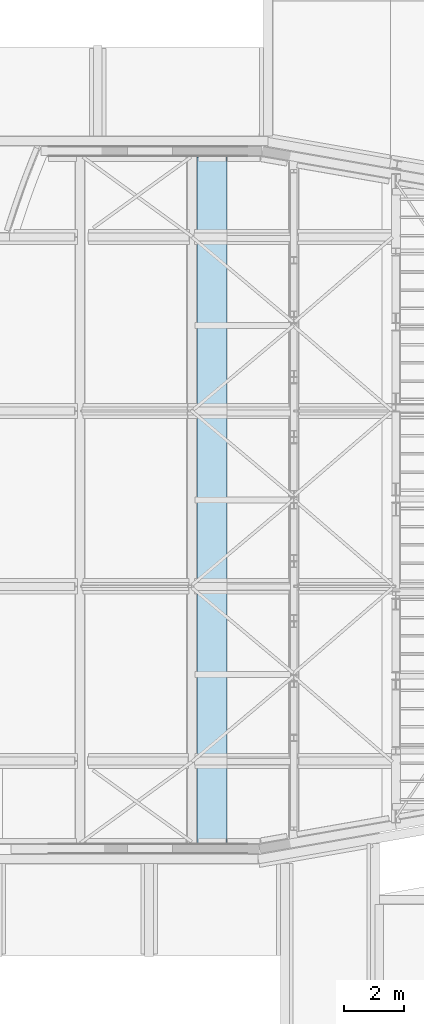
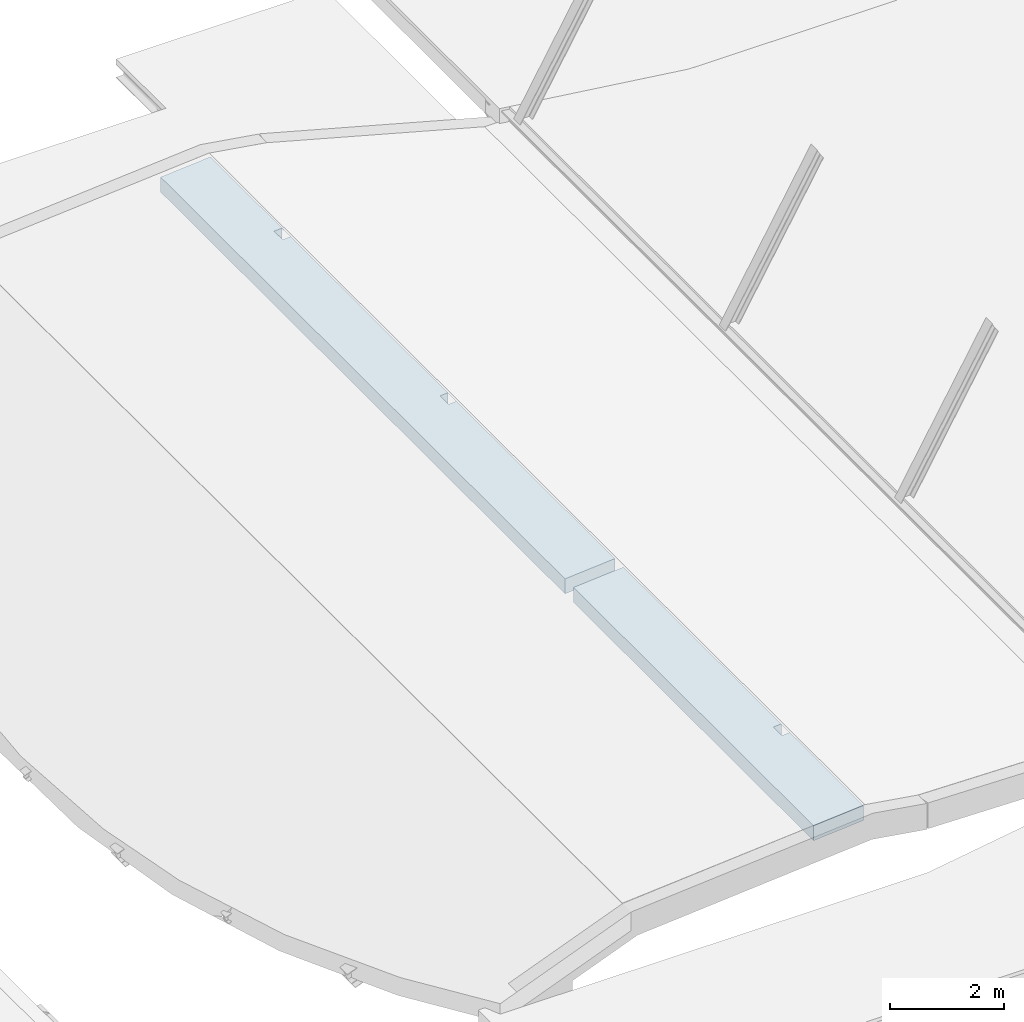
# One storey, part 39 of 50: 1 slab, 8 openings.
"""IFC2X3 building model written with IfcOpenShell, lengths in millimetres."""

from ifc_helpers import new_model, entity, si_unit, converted_unit, derived_unit, direction, frame, frame_2d, origin, place, context, subcontext, project, spatial, rectangle, extrude, faceted_brep, material, layer, layer_set, layer_usage, type_object, element, save


model = new_model("IFC2X3")

# Units and contexts
model_context = context("Model", 3, precision=0.01, world=origin(), true_north=direction((6.12303176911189e-17, 1.0)))
body_context = subcontext(model_context, "Body", "Model", "MODEL_VIEW")
ifc_project = project(units=[si_unit("LENGTHUNIT", "METRE", prefix="MILLI"), si_unit("AREAUNIT", "SQUARE_METRE", prefix="MILLI"), si_unit("VOLUMEUNIT", "CUBIC_METRE"), converted_unit("PLANEANGLEUNIT", "DEGREE", entity("IfcRatioMeasure", 0.0174532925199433), si_unit("PLANEANGLEUNIT", "RADIAN"), dimensions=[0, 0, 0, 0, 0, 0, 0]), si_unit("MASSUNIT", "GRAM", prefix="KILO"), derived_unit("MASSDENSITYUNIT", [(si_unit("MASSUNIT", "GRAM", prefix="KILO"), 1), (si_unit("LENGTHUNIT", "METRE"), -3)]), derived_unit("MOMENTOFINERTIAUNIT", [(si_unit("LENGTHUNIT", "METRE"), 4)]), si_unit("TIMEUNIT", "SECOND"), si_unit("FREQUENCYUNIT", "HERTZ"), si_unit("THERMODYNAMICTEMPERATUREUNIT", "DEGREE_CELSIUS"), derived_unit("THERMALTRANSMITTANCEUNIT", [(si_unit("MASSUNIT", "GRAM", prefix="KILO"), 1), (si_unit("THERMODYNAMICTEMPERATUREUNIT", "KELVIN"), -1), (si_unit("TIMEUNIT", "SECOND"), -3)]), derived_unit("VOLUMETRICFLOWRATEUNIT", [(si_unit("LENGTHUNIT", "METRE"), 3), (si_unit("TIMEUNIT", "SECOND"), -1)]), si_unit("ELECTRICCURRENTUNIT", "AMPERE"), si_unit("ELECTRICVOLTAGEUNIT", "VOLT"), si_unit("POWERUNIT", "WATT"), si_unit("FORCEUNIT", "NEWTON", prefix="KILO"), si_unit("ILLUMINANCEUNIT", "LUX"), si_unit("LUMINOUSFLUXUNIT", "LUMEN"), si_unit("LUMINOUSINTENSITYUNIT", "CANDELA"), derived_unit("USERDEFINED", [(si_unit("MASSUNIT", "GRAM", prefix="KILO"), -1), (si_unit("LENGTHUNIT", "METRE"), -2), (si_unit("TIMEUNIT", "SECOND"), 3), (si_unit("LUMINOUSFLUXUNIT", "LUMEN"), 1)]), derived_unit("LINEARVELOCITYUNIT", [(si_unit("LENGTHUNIT", "METRE"), 1), (si_unit("TIMEUNIT", "SECOND"), -1)]), si_unit("PRESSUREUNIT", "PASCAL"), derived_unit("USERDEFINED", [(si_unit("LENGTHUNIT", "METRE"), -2), (si_unit("MASSUNIT", "GRAM", prefix="KILO"), 1), (si_unit("TIMEUNIT", "SECOND"), -2)]), derived_unit("LINEARFORCEUNIT", [(si_unit("MASSUNIT", "GRAM", prefix="KILO"), 1), (si_unit("LENGTHUNIT", "METRE"), 1), (si_unit("TIMEUNIT", "SECOND"), -2), (si_unit("LENGTHUNIT", "METRE"), -1)]), derived_unit("PLANARFORCEUNIT", [(si_unit("MASSUNIT", "GRAM", prefix="KILO"), 1), (si_unit("LENGTHUNIT", "METRE"), 1), (si_unit("TIMEUNIT", "SECOND"), -2), (si_unit("LENGTHUNIT", "METRE"), -2)])], contexts=[model_context])

# Site, building, storey
site_placement = place(None, origin())
site = spatial("IfcSite", under=ifc_project, at=site_placement, Name="Theater aan de Parade", CompositionType="ELEMENT")
building_placement = place(site_placement, origin())
building = spatial("IfcBuilding", under=site, at=building_placement, Name="Theater aan de Parade", CompositionType="ELEMENT")
storey_placement = place(building_placement, frame((0.0, 0.0, 15820.0)))
storey = spatial("IfcBuildingStorey", under=building, at=storey_placement, Name="04 vierde verdieping", CompositionType="ELEMENT", Elevation=15820.0)

# Slab, openings
ifc_material = material(Name="00_PBT_MAT_systeemvloer")
ifc_layer = layer(ifc_material, 320.0)
ifc_layer_set = layer_set([ifc_layer], Name="Floor:28_PBT_FL_kanaalplaat_d=320")
ifc_layer_usage = layer_usage(ifc_layer_set, "AXIS3", "POSITIVE", 0.0)
slab_type = type_object("IfcSlabType", Name="Floor:28_PBT_FL_kanaalplaat_d=320", PredefinedType="FLOOR", material=ifc_layer_set)
slab_placement = place(storey_placement, frame((45780.0, 20980.0, 1322.41958552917)))
slab = element("IfcSlab", 1, at=slab_placement, inside=storey, type_object=slab_type, material=ifc_layer_usage, Name="Floor:28_PBT_FL_kanaalplaat_d=320:2", ObjectType="Floor:28_PBT_FL_kanaalplaat_d=320", PredefinedType="FLOOR", context=body_context, shape_type="SweptSolid", body=[
    extrude(rectangle(XDim=1012.78766900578, YDim=22879.9999999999, at=frame_2d((3673.50965774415, -742.555229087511), x_axis=(-1.0, 0.0))), frame((567.96014646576, 12182.5552290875, 366.434549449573), z_axis=(-0.079704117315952, 0.0, 0.996818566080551), x_axis=(0.996818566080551, 0.0, 0.0797041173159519)), (-0.0797041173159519, 0.0, -0.996818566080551), 321.021308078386),
])
placement = place(storey_placement, frame((45780.0, 20980.0, 1322.41958552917)))
opening_1_placement = place(placement, frame((76.0079135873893, 2473.93663264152, 3.18347489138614)))
element("IfcOpeningElement", 2, at=opening_1_placement, cuts=slab, ObjectType="Opening", context=body_context, shape_type="Brep", body=[
    faceted_brep([(3344.51160539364, 105.0, 591.29730859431), (3344.51160539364, 405.0, 591.29730859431), (0.0, 105.0, 323.966738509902), (0.0, 405.0, 323.966738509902), (3370.247276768, 0.0, 269.324211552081), (3370.32695376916, 0.0, 268.327390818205), (3370.32695376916, 105.0, 268.327390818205), (3370.32695376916, 405.0, 268.327390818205), (3370.40663077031, 105.0, 267.33057008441), (3370.40663077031, 405.0, 267.33057008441), (3370.247276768, 510.0, 269.324211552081), (3370.32695376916, 510.0, 268.327390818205), (3370.247276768, 405.0, 269.324211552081), (3370.247276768, 105.0, 269.324211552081), (25.815348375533, 105.0, 0.996820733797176), (25.815348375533, 0.0, 0.996820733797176), (25.7356713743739, 0.0, 1.99364146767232), (25.8950253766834, 105.0, 0.0), (25.815348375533, 405.0, 0.996820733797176), (25.8950253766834, 405.0, 0.0), (25.815348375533, 510.0, 0.996820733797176), (25.7356713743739, 510.0, 1.99364146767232), (25.7356713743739, 405.0, 1.99364146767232), (25.7356713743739, 105.0, 1.99364146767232), (2871.91658683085, 405.0, 228.488890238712), (2871.83690982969, 405.0, 229.485710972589), (175.338458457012, 405.0, 12.9483709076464), (175.258781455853, 405.0, 13.9451916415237), (2971.51898321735, 105.0, 237.453411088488), (2971.59866021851, 105.0, 236.45659035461), (125.497421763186, 105.0, 8.96452084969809), (125.417744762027, 105.0, 9.96134158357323), (175.258781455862, 510.0, 13.9451916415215), (175.338458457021, 510.0, 12.9483709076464), (125.417744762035, 0.0, 9.96134158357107), (125.497421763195, 0.0, 8.96452084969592), (2871.83690982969, 510.0, 229.485710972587), (2871.91658683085, 510.0, 228.488890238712), (2971.51898321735, 0.0, 237.453411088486), (2971.59866021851, 0.0, 236.45659035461)], [[[0, 1, 2]], [[3, 2, 1]], [[4, 5, 6]], [[7, 6, 8]], [[8, 9, 7]], [[10, 7, 11]], [[7, 12, 6]], [[1, 0, 13]], [[6, 12, 13]], [[12, 7, 10]], [[13, 12, 1]], [[13, 4, 6]], [[14, 15, 16]], [[17, 14, 18]], [[18, 19, 17]], [[20, 18, 21]], [[14, 22, 18]], [[23, 2, 3]], [[23, 22, 14]], [[21, 18, 22]], [[3, 22, 23]], [[14, 16, 23]], [[9, 24, 7]], [[24, 9, 19]], [[1, 12, 25]], [[1, 25, 3]], [[24, 26, 25]], [[26, 19, 18]], [[19, 26, 24]], [[27, 22, 3]], [[27, 3, 25]], [[26, 27, 25]], [[0, 28, 13]], [[28, 0, 2]], [[8, 6, 29]], [[8, 29, 17]], [[28, 30, 29]], [[31, 2, 23]], [[2, 31, 28]], [[30, 14, 17]], [[30, 17, 29]], [[31, 30, 28]], [[9, 8, 19]], [[17, 19, 8]], [[22, 27, 32]], [[32, 21, 22]], [[20, 33, 26]], [[26, 18, 20]], [[32, 27, 33]], [[26, 33, 27]], [[21, 32, 33]], [[33, 20, 21]], [[34, 31, 16]], [[23, 16, 31]], [[15, 14, 35]], [[30, 35, 14]], [[34, 16, 15]], [[15, 35, 34]], [[31, 34, 35]], [[35, 30, 31]], [[25, 12, 36]], [[10, 36, 12]], [[37, 11, 24]], [[7, 24, 11]], [[36, 10, 11]], [[11, 37, 36]], [[25, 36, 37]], [[37, 24, 25]], [[38, 4, 13]], [[13, 28, 38]], [[29, 6, 5]], [[5, 39, 29]], [[38, 28, 29]], [[29, 39, 38]], [[4, 38, 39]], [[39, 5, 4]]]),
])
opening_2_placement = place(placement, frame((-108.225878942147, 8302.98799142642, -11.5425391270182)))
element("IfcOpeningElement", 3, at=opening_2_placement, cuts=slab, ObjectType="Opening", context=body_context, shape_type="Brep", body=[
    faceted_brep([(3548.68181260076, 105.0, 607.616862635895), (3548.68181260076, 405.0, 607.616862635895), (0.0, 405.0, 323.966738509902), (0.0, 105.0, 323.966738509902), (3574.41748397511, 0.0, 285.643765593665), (3574.49716097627, 0.0, 284.64694485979), (3574.49716097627, 105.0, 284.64694485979), (3574.49716097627, 405.0, 284.64694485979), (3574.57683797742, 105.0, 283.650124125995), (3574.57683797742, 405.0, 283.650124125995), (3574.41748397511, 510.0, 285.643765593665), (3574.49716097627, 510.0, 284.64694485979), (3574.41748397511, 405.0, 285.643765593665), (3574.41748397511, 105.0, 285.643765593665), (25.815348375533, 105.0, 0.996820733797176), (25.815348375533, 0.0, 0.996820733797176), (25.7356713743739, 0.0, 1.99364146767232), (25.8950253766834, 105.0, 0.0), (25.815348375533, 405.0, 0.996820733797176), (25.8950253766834, 405.0, 0.0), (25.815348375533, 510.0, 0.996820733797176), (25.7356713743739, 510.0, 1.99364146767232), (25.7356713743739, 405.0, 1.99364146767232), (25.7356713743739, 105.0, 1.99364146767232), (3076.08679403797, 405.0, 244.808444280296), (3076.00711703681, 405.0, 245.805265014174), (175.338458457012, 405.0, 12.9483709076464), (175.258781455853, 405.0, 13.9451916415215), (3175.68919042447, 105.0, 253.772965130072), (3175.76886742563, 105.0, 252.776144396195), (125.497421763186, 105.0, 8.96452084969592), (125.417744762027, 105.0, 9.96134158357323), (175.258781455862, 510.0, 13.9451916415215), (175.338458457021, 510.0, 12.9483709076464), (125.417744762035, 0.0, 9.96134158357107), (125.497421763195, 0.0, 8.96452084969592), (3076.00711703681, 510.0, 245.805265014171), (3076.08679403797, 510.0, 244.808444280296), (3175.68919042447, 0.0, 253.77296513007), (3175.76886742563, 0.0, 252.776144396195)], [[[0, 1, 2]], [[2, 3, 0]], [[4, 5, 6]], [[7, 6, 8]], [[8, 9, 7]], [[10, 7, 11]], [[7, 12, 6]], [[1, 0, 13]], [[6, 12, 13]], [[12, 7, 10]], [[13, 12, 1]], [[13, 4, 6]], [[14, 15, 16]], [[17, 14, 18]], [[18, 19, 17]], [[20, 18, 21]], [[14, 22, 18]], [[23, 3, 2]], [[23, 22, 14]], [[21, 18, 22]], [[2, 22, 23]], [[14, 16, 23]], [[9, 24, 7]], [[24, 9, 19]], [[1, 12, 25]], [[1, 25, 2]], [[24, 26, 25]], [[26, 19, 18]], [[19, 26, 24]], [[27, 22, 2]], [[27, 2, 25]], [[26, 27, 25]], [[0, 28, 13]], [[28, 0, 3]], [[8, 6, 29]], [[8, 29, 17]], [[28, 30, 29]], [[31, 3, 23]], [[3, 31, 28]], [[30, 14, 17]], [[30, 17, 29]], [[31, 30, 28]], [[9, 8, 17]], [[17, 19, 9]], [[22, 27, 32]], [[32, 21, 22]], [[20, 33, 26]], [[26, 18, 20]], [[32, 27, 33]], [[26, 33, 27]], [[21, 32, 33]], [[33, 20, 21]], [[34, 31, 16]], [[23, 16, 31]], [[15, 14, 35]], [[30, 35, 14]], [[34, 16, 15]], [[15, 35, 34]], [[31, 34, 35]], [[35, 30, 31]], [[25, 12, 36]], [[10, 36, 12]], [[37, 11, 24]], [[7, 24, 11]], [[36, 10, 11]], [[11, 37, 36]], [[25, 36, 37]], [[37, 24, 25]], [[38, 4, 13]], [[13, 28, 38]], [[29, 6, 5]], [[5, 39, 29]], [[38, 28, 29]], [[29, 39, 38]], [[4, 38, 39]], [[39, 5, 4]]]),
])
opening_3_placement = place(placement, frame((-108.225878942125, 14154.5120085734, -11.5425391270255)))
element("IfcOpeningElement", 4, at=opening_3_placement, cuts=slab, ObjectType="Opening", context=body_context, shape_type="Brep", body=[
    faceted_brep([(3496.14935931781, 105.0, 603.417884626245), (3496.14935931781, 405.0, 603.417884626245), (0.0, 405.0, 323.966738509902), (0.0, 105.0, 323.966738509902), (3521.88503069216, 0.0, 281.444787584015), (3521.96470769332, 0.0, 280.44796685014), (3521.96470769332, 105.0, 280.44796685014), (3521.96470769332, 405.0, 280.44796685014), (3522.04438469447, 105.0, 279.451146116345), (3522.04438469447, 405.0, 279.451146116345), (3521.88503069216, 510.0, 281.444787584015), (3521.96470769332, 510.0, 280.44796685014), (3521.88503069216, 405.0, 281.444787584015), (3521.88503069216, 105.0, 281.444787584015), (25.815348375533, 105.0, 0.996820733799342), (25.815348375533, 0.0, 0.996820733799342), (25.7356713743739, 0.0, 1.99364146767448), (25.8950253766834, 105.0, 0.0), (25.815348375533, 405.0, 0.996820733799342), (25.8950253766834, 405.0, 0.0), (25.815348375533, 510.0, 0.996820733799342), (25.7356713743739, 510.0, 1.99364146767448), (25.7356713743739, 405.0, 1.99364146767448), (25.7356713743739, 105.0, 1.99364146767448), (3023.55434075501, 405.0, 240.609466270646), (3023.47466375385, 405.0, 241.606287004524), (175.338458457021, 405.0, 12.9483709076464), (175.258781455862, 405.0, 13.9451916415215), (3123.15673714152, 105.0, 249.573987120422), (3123.23641414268, 105.0, 248.577166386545), (125.497421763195, 105.0, 8.96452084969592), (125.417744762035, 105.0, 9.96134158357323), (175.258781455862, 510.0, 13.9451916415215), (175.338458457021, 510.0, 12.9483709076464), (125.417744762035, 0.0, 9.96134158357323), (125.497421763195, 0.0, 8.96452084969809), (3023.47466375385, 510.0, 241.606287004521), (3023.55434075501, 510.0, 240.609466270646), (3123.15673714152, 0.0, 249.57398712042), (3123.23641414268, 0.0, 248.577166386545)], [[[0, 1, 2]], [[2, 3, 0]], [[4, 5, 6]], [[7, 6, 8]], [[8, 9, 7]], [[10, 7, 11]], [[7, 12, 6]], [[1, 0, 13]], [[6, 12, 13]], [[12, 7, 10]], [[13, 12, 1]], [[13, 4, 6]], [[14, 15, 16]], [[17, 14, 18]], [[18, 19, 17]], [[20, 18, 21]], [[14, 22, 18]], [[23, 3, 2]], [[23, 22, 14]], [[21, 18, 22]], [[2, 22, 23]], [[14, 16, 23]], [[9, 24, 7]], [[24, 9, 19]], [[1, 12, 25]], [[1, 25, 2]], [[24, 26, 25]], [[26, 19, 18]], [[19, 26, 24]], [[27, 22, 2]], [[27, 2, 25]], [[26, 27, 25]], [[0, 28, 13]], [[28, 0, 3]], [[8, 6, 29]], [[8, 29, 17]], [[28, 30, 29]], [[31, 3, 23]], [[3, 31, 28]], [[30, 14, 17]], [[30, 17, 29]], [[31, 30, 28]], [[9, 8, 17]], [[17, 19, 9]], [[22, 27, 32]], [[32, 21, 22]], [[20, 33, 26]], [[26, 18, 20]], [[32, 27, 33]], [[26, 33, 27]], [[21, 32, 33]], [[33, 20, 21]], [[34, 31, 23]], [[23, 16, 34]], [[15, 14, 35]], [[30, 35, 14]], [[34, 16, 15]], [[15, 35, 34]], [[31, 34, 35]], [[35, 30, 31]], [[25, 12, 36]], [[10, 36, 12]], [[37, 11, 24]], [[7, 24, 11]], [[36, 10, 11]], [[11, 37, 36]], [[25, 36, 37]], [[37, 24, 25]], [[38, 4, 13]], [[13, 28, 38]], [[29, 6, 5]], [[5, 39, 29]], [[38, 28, 29]], [[29, 39, 38]], [[4, 38, 39]], [[39, 5, 4]]]),
])
opening_4_placement = place(placement, frame((86.3540673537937, 19963.5633673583, 4.0104545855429)))
element("IfcOpeningElement", 5, at=opening_4_placement, cuts=slab, ObjectType="Opening", context=body_context, shape_type="Brep", body=[
    faceted_brep([(3374.03828098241, 105.0, 593.657408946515), (3374.03828098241, 405.0, 593.657408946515), (0.0, 105.0, 323.966738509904), (0.0, 405.0, 323.966738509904), (3399.77395235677, 0.0, 271.684311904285), (3399.85362935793, 0.0, 270.68749117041), (3399.85362935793, 105.0, 270.68749117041), (3399.85362935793, 405.0, 270.68749117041), (3399.93330635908, 105.0, 269.690670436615), (3399.93330635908, 405.0, 269.690670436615), (3399.77395235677, 510.0, 271.684311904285), (3399.85362935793, 510.0, 270.68749117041), (3399.77395235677, 405.0, 271.684311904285), (3399.77395235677, 105.0, 271.684311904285), (25.815348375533, 105.0, 0.996820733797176), (25.815348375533, 0.0, 0.996820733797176), (25.7356713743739, 0.0, 1.99364146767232), (25.8950253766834, 105.0, 0.0), (25.815348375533, 405.0, 0.996820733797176), (25.8950253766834, 405.0, 0.0), (25.815348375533, 510.0, 0.996820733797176), (25.7356713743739, 510.0, 1.99364146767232), (25.7356713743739, 405.0, 1.99364146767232), (25.7356713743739, 105.0, 1.99364146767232), (2901.44326241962, 405.0, 230.848990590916), (2901.36358541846, 405.0, 231.845811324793), (175.338458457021, 405.0, 12.9483709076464), (175.258781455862, 405.0, 13.9451916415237), (3001.04565880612, 105.0, 239.813511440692), (3001.12533580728, 105.0, 238.816690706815), (125.497421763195, 105.0, 8.96452084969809), (125.417744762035, 105.0, 9.96134158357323), (175.258781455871, 510.0, 13.9451916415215), (175.33845845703, 510.0, 12.9483709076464), (125.417744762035, 0.0, 9.96134158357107), (125.497421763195, 0.0, 8.96452084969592), (2901.36358541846, 510.0, 231.845811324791), (2901.44326241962, 510.0, 230.848990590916), (3001.04565880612, 0.0, 239.81351144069), (3001.12533580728, 0.0, 238.816690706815)], [[[0, 1, 2]], [[3, 2, 1]], [[4, 5, 6]], [[7, 6, 8]], [[8, 9, 7]], [[10, 7, 11]], [[7, 12, 6]], [[1, 0, 13]], [[6, 12, 13]], [[12, 7, 10]], [[13, 12, 1]], [[13, 4, 6]], [[14, 15, 16]], [[17, 14, 18]], [[18, 19, 17]], [[20, 18, 21]], [[14, 22, 18]], [[23, 2, 3]], [[23, 22, 14]], [[21, 18, 22]], [[3, 22, 23]], [[14, 16, 23]], [[9, 24, 7]], [[24, 9, 19]], [[1, 12, 25]], [[1, 25, 3]], [[24, 26, 25]], [[26, 19, 18]], [[19, 26, 24]], [[27, 22, 3]], [[27, 3, 25]], [[26, 27, 25]], [[0, 28, 13]], [[28, 0, 2]], [[8, 6, 29]], [[8, 29, 17]], [[28, 30, 29]], [[31, 2, 23]], [[2, 31, 28]], [[30, 14, 17]], [[30, 17, 29]], [[31, 30, 28]], [[9, 8, 19]], [[17, 19, 8]], [[22, 27, 32]], [[32, 21, 22]], [[20, 33, 26]], [[26, 18, 20]], [[32, 27, 33]], [[26, 33, 27]], [[21, 32, 33]], [[33, 20, 21]], [[34, 31, 16]], [[23, 16, 31]], [[15, 14, 35]], [[30, 35, 14]], [[34, 16, 15]], [[15, 35, 34]], [[31, 34, 35]], [[35, 30, 31]], [[25, 12, 36]], [[10, 36, 12]], [[37, 11, 24]], [[7, 24, 11]], [[36, 10, 11]], [[11, 37, 36]], [[25, 36, 37]], [[37, 24, 25]], [[38, 4, 13]], [[13, 28, 38]], [[29, 6, 5]], [[5, 39, 29]], [[38, 28, 29]], [[29, 39, 38]], [[4, 38, 39]], [[39, 5, 4]]]),
])
opening_5_placement = place(placement, frame((4528.62658293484, 19963.5633673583, 41.1030210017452)))
element("IfcOpeningElement", 6, at=opening_5_placement, cuts=slab, ObjectType="Opening", context=body_context, shape_type="Brep", body=[
    faceted_brep([(2322.524384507, 105.0, 320.998710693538), (2322.524384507, 405.0, 320.998710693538), (50.8412011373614, 405.0, 680.797980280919), (50.8412011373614, 105.0, 680.797980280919), (2271.99605229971, 0.0, 1.97537668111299), (2271.83961783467, 0.0, 0.987688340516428), (2271.83961783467, 105.0, 0.987688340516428), (2271.83961783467, 405.0, 0.987688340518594), (2271.68318336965, 105.0, 0.0), (2271.68318336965, 405.0, 0.0), (2271.99605229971, 510.0, 1.97537668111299), (2271.83961783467, 510.0, 0.987688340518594), (2271.99605229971, 405.0, 1.97537668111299), (2271.99605229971, 105.0, 1.97537668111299), (0.156434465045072, 105.0, 360.7869579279), (0.156434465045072, 0.0, 360.7869579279), (0.312868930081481, 0.0, 361.774646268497), (0.0, 105.0, 359.799269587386), (0.156434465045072, 405.0, 360.7869579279), (0.0, 405.0, 359.799269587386), (0.156434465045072, 510.0, 360.7869579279), (0.312868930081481, 510.0, 361.774646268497), (0.312868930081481, 405.0, 361.774646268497), (0.312868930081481, 105.0, 361.774646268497), (1777.99544753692, 405.0, 79.2049208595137), (1778.15188200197, 405.0, 80.1926092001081), (148.309685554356, 405.0, 337.321788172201), (148.466120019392, 405.0, 338.309476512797), (1876.92071606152, 105.0, 64.5491626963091), (1876.76428159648, 105.0, 63.5614743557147), (98.9252685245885, 105.0, 345.143511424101), (99.0817029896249, 105.0, 346.131199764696), (148.466120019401, 510.0, 338.309476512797), (148.309685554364, 510.0, 337.321788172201), (99.0817029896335, 0.0, 346.131199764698), (98.9252685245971, 0.0, 345.143511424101), (1778.15188200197, 510.0, 80.1926092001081), (1777.99544753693, 510.0, 79.2049208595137), (1876.92071606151, 0.0, 64.5491626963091), (1876.76428159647, 0.0, 63.5614743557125)], [[[0, 1, 2]], [[2, 3, 0]], [[4, 5, 6]], [[7, 6, 8]], [[8, 9, 7]], [[10, 7, 11]], [[7, 12, 6]], [[1, 0, 13]], [[6, 12, 13]], [[12, 7, 10]], [[13, 12, 1]], [[13, 4, 6]], [[14, 15, 16]], [[17, 14, 18]], [[18, 19, 17]], [[20, 18, 21]], [[14, 22, 18]], [[23, 3, 2]], [[23, 22, 14]], [[21, 18, 22]], [[2, 22, 23]], [[14, 16, 23]], [[9, 24, 7]], [[24, 9, 19]], [[1, 12, 25]], [[1, 25, 2]], [[24, 26, 25]], [[26, 19, 18]], [[19, 26, 24]], [[27, 22, 2]], [[27, 2, 25]], [[26, 27, 25]], [[0, 28, 13]], [[28, 0, 3]], [[8, 6, 29]], [[8, 29, 17]], [[28, 30, 29]], [[31, 3, 23]], [[3, 31, 28]], [[30, 14, 17]], [[30, 17, 29]], [[31, 30, 28]], [[9, 8, 17]], [[17, 19, 9]], [[22, 27, 32]], [[32, 21, 22]], [[20, 33, 26]], [[26, 18, 20]], [[32, 27, 33]], [[26, 33, 27]], [[21, 32, 33]], [[33, 20, 21]], [[34, 31, 16]], [[23, 16, 31]], [[15, 14, 35]], [[30, 35, 14]], [[34, 16, 15]], [[15, 35, 34]], [[31, 34, 35]], [[35, 30, 31]], [[25, 12, 36]], [[10, 36, 12]], [[37, 11, 7]], [[7, 24, 37]], [[36, 10, 11]], [[11, 37, 36]], [[25, 36, 37]], [[37, 24, 25]], [[38, 4, 13]], [[13, 28, 38]], [[29, 6, 5]], [[5, 39, 29]], [[38, 28, 29]], [[29, 39, 38]], [[4, 38, 39]], [[39, 5, 4]]]),
])
opening_6_placement = place(placement, frame((4528.6265829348, 14154.5120085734, 41.1030210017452)))
element("IfcOpeningElement", 7, at=opening_6_placement, cuts=slab, ObjectType="Opening", context=body_context, shape_type="Brep", body=[
    faceted_brep([(2322.524384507, 105.0, 320.998710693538), (2322.524384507, 405.0, 320.998710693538), (50.8412011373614, 405.0, 680.797980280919), (50.8412011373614, 105.0, 680.797980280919), (2271.99605229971, 0.0, 1.97537668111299), (2271.83961783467, 0.0, 0.987688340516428), (2271.83961783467, 105.0, 0.987688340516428), (2271.83961783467, 405.0, 0.987688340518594), (2271.68318336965, 105.0, 0.0), (2271.68318336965, 405.0, 0.0), (2271.99605229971, 510.0, 1.97537668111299), (2271.83961783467, 510.0, 0.987688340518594), (2271.99605229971, 405.0, 1.97537668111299), (2271.99605229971, 105.0, 1.97537668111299), (0.156434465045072, 105.0, 360.7869579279), (0.156434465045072, 0.0, 360.7869579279), (0.312868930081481, 0.0, 361.774646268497), (0.0, 105.0, 359.799269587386), (0.156434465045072, 405.0, 360.7869579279), (0.0, 405.0, 359.799269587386), (0.156434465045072, 510.0, 360.7869579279), (0.312868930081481, 510.0, 361.774646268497), (0.312868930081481, 405.0, 361.774646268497), (0.312868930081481, 105.0, 361.774646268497), (1777.99544753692, 405.0, 79.2049208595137), (1778.15188200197, 405.0, 80.1926092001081), (148.309685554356, 405.0, 337.321788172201), (148.466120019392, 405.0, 338.309476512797), (1876.92071606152, 105.0, 64.5491626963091), (1876.76428159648, 105.0, 63.5614743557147), (98.9252685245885, 105.0, 345.143511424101), (99.0817029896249, 105.0, 346.131199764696), (148.466120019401, 510.0, 338.309476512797), (148.309685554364, 510.0, 337.321788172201), (99.0817029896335, 0.0, 346.131199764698), (98.9252685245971, 0.0, 345.143511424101), (1778.15188200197, 510.0, 80.1926092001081), (1777.99544753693, 510.0, 79.2049208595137), (1876.92071606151, 0.0, 64.5491626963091), (1876.76428159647, 0.0, 63.5614743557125)], [[[0, 1, 2]], [[2, 3, 0]], [[4, 5, 6]], [[7, 6, 8]], [[8, 9, 7]], [[10, 7, 11]], [[7, 12, 6]], [[1, 0, 13]], [[6, 12, 13]], [[12, 7, 10]], [[13, 12, 1]], [[13, 4, 6]], [[14, 15, 16]], [[17, 14, 18]], [[18, 19, 17]], [[20, 18, 21]], [[14, 22, 18]], [[23, 3, 2]], [[23, 22, 14]], [[21, 18, 22]], [[2, 22, 23]], [[14, 16, 23]], [[9, 24, 7]], [[24, 9, 19]], [[1, 12, 25]], [[1, 25, 2]], [[24, 26, 25]], [[26, 19, 18]], [[19, 26, 24]], [[27, 22, 2]], [[27, 2, 25]], [[26, 27, 25]], [[0, 28, 13]], [[28, 0, 3]], [[8, 6, 29]], [[8, 29, 17]], [[28, 30, 29]], [[31, 3, 23]], [[3, 31, 28]], [[30, 14, 17]], [[30, 17, 29]], [[31, 30, 28]], [[9, 8, 17]], [[17, 19, 9]], [[22, 27, 32]], [[32, 21, 22]], [[20, 33, 26]], [[26, 18, 20]], [[32, 27, 33]], [[26, 33, 27]], [[21, 32, 33]], [[33, 20, 21]], [[34, 31, 16]], [[23, 16, 31]], [[15, 14, 35]], [[30, 35, 14]], [[34, 16, 15]], [[15, 35, 34]], [[31, 34, 35]], [[35, 30, 31]], [[25, 12, 36]], [[10, 36, 12]], [[37, 11, 7]], [[7, 24, 37]], [[36, 10, 11]], [[11, 37, 36]], [[25, 36, 37]], [[37, 24, 25]], [[38, 4, 13]], [[13, 28, 38]], [[29, 6, 5]], [[5, 39, 29]], [[38, 28, 29]], [[29, 39, 38]], [[4, 38, 39]], [[39, 5, 4]]]),
])
opening_7_placement = place(placement, frame((3620.47701462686, 8302.98799142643, 286.496872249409)))
element("IfcOpeningElement", 8, at=opening_7_placement, cuts=slab, ObjectType="Opening", context=body_context, shape_type="Brep", body=[
    faceted_brep([(1315.80336871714, 105.0, 429.140380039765), (1315.80336871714, 405.0, 429.140380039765), (0.0, 105.0, 323.966738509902), (0.0, 405.0, 323.966738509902), (1341.5390400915, 0.0, 107.167282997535), (1341.61871709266, 0.0, 106.17046226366), (1341.61871709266, 105.0, 106.17046226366), (1341.61871709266, 405.0, 106.17046226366), (1341.69839409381, 105.0, 105.173641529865), (1341.69839409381, 405.0, 105.173641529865), (1341.5390400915, 510.0, 107.167282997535), (1341.61871709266, 510.0, 106.17046226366), (1341.5390400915, 405.0, 107.167282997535), (1341.5390400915, 105.0, 107.167282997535), (25.815348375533, 105.0, 0.996820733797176), (25.815348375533, 0.0, 0.996820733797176), (25.7356713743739, 0.0, 1.99364146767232), (25.8950253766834, 105.0, 0.0), (25.815348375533, 405.0, 0.996820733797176), (25.8950253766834, 405.0, 0.0), (25.815348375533, 510.0, 0.996820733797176), (25.7356713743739, 510.0, 1.99364146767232), (25.7356713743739, 405.0, 1.99364146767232), (25.7356713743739, 105.0, 1.99364146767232), (843.208350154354, 405.0, 66.331961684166), (843.128673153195, 405.0, 67.3287824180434), (175.338458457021, 405.0, 12.9483709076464), (175.258781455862, 405.0, 13.9451916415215), (942.810746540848, 105.0, 75.2964825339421), (942.890423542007, 105.0, 74.2996618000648), (125.497421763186, 105.0, 8.96452084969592), (125.417744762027, 105.0, 9.96134158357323), (175.258781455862, 510.0, 13.9451916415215), (175.338458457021, 510.0, 12.9483709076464), (125.417744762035, 0.0, 9.96134158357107), (125.497421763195, 0.0, 8.96452084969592), (843.128673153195, 510.0, 67.3287824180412), (843.208350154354, 510.0, 66.331961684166), (942.810746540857, 0.0, 75.2964825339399), (942.890423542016, 0.0, 74.2996618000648)], [[[0, 1, 2]], [[3, 2, 1]], [[4, 5, 6]], [[7, 6, 8]], [[8, 9, 7]], [[10, 7, 11]], [[7, 12, 6]], [[1, 0, 13]], [[6, 12, 13]], [[12, 7, 10]], [[13, 12, 1]], [[13, 4, 6]], [[14, 15, 16]], [[17, 14, 18]], [[18, 19, 17]], [[20, 18, 21]], [[14, 22, 18]], [[23, 2, 3]], [[23, 22, 14]], [[21, 18, 22]], [[3, 22, 23]], [[14, 16, 23]], [[9, 24, 7]], [[24, 9, 19]], [[1, 12, 25]], [[1, 25, 3]], [[24, 26, 25]], [[26, 19, 18]], [[19, 26, 24]], [[27, 22, 3]], [[27, 3, 25]], [[26, 27, 25]], [[0, 28, 13]], [[28, 0, 2]], [[8, 6, 29]], [[8, 29, 17]], [[28, 30, 29]], [[31, 2, 23]], [[2, 31, 28]], [[30, 14, 17]], [[30, 17, 29]], [[31, 30, 28]], [[9, 8, 19]], [[17, 19, 8]], [[22, 27, 32]], [[32, 21, 22]], [[20, 33, 26]], [[26, 18, 20]], [[32, 27, 33]], [[26, 33, 27]], [[21, 32, 33]], [[33, 20, 21]], [[34, 31, 16]], [[23, 16, 31]], [[15, 14, 35]], [[30, 35, 14]], [[34, 16, 15]], [[15, 35, 34]], [[31, 34, 35]], [[35, 30, 31]], [[25, 12, 36]], [[10, 36, 12]], [[37, 11, 7]], [[7, 24, 37]], [[36, 10, 11]], [[11, 37, 36]], [[25, 36, 37]], [[37, 24, 25]], [[38, 4, 13]], [[13, 28, 38]], [[29, 6, 5]], [[5, 39, 29]], [[38, 28, 29]], [[29, 39, 38]], [[4, 38, 39]], [[39, 5, 4]]]),
])
opening_8_placement = place(placement, frame((4528.62658293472, 2473.93663264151, 41.1030210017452)))
element("IfcOpeningElement", 9, at=opening_8_placement, cuts=slab, ObjectType="Opening", context=body_context, shape_type="Brep", body=[
    faceted_brep([(2322.524384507, 105.0, 320.998710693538), (2322.524384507, 405.0, 320.998710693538), (50.8412011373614, 405.0, 680.797980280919), (50.8412011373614, 105.0, 680.797980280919), (2271.99605229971, 0.0, 1.97537668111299), (2271.83961783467, 0.0, 0.987688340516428), (2271.83961783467, 105.0, 0.987688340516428), (2271.83961783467, 405.0, 0.987688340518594), (2271.68318336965, 105.0, 0.0), (2271.68318336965, 405.0, 0.0), (2271.99605229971, 510.0, 1.97537668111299), (2271.83961783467, 510.0, 0.987688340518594), (2271.99605229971, 405.0, 1.97537668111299), (2271.99605229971, 105.0, 1.97537668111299), (0.156434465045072, 105.0, 360.7869579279), (0.156434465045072, 0.0, 360.7869579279), (0.312868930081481, 0.0, 361.774646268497), (0.0, 105.0, 359.799269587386), (0.156434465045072, 405.0, 360.7869579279), (0.0, 405.0, 359.799269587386), (0.156434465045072, 510.0, 360.7869579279), (0.312868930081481, 510.0, 361.774646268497), (0.312868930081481, 405.0, 361.774646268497), (0.312868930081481, 105.0, 361.774646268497), (1777.99544753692, 405.0, 79.2049208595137), (1778.15188200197, 405.0, 80.1926092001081), (148.309685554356, 405.0, 337.321788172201), (148.466120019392, 405.0, 338.309476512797), (1876.92071606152, 105.0, 64.5491626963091), (1876.76428159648, 105.0, 63.5614743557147), (98.9252685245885, 105.0, 345.143511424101), (99.0817029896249, 105.0, 346.131199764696), (148.466120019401, 510.0, 338.309476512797), (148.309685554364, 510.0, 337.321788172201), (99.0817029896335, 0.0, 346.131199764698), (98.9252685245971, 0.0, 345.143511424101), (1778.15188200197, 510.0, 80.1926092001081), (1777.99544753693, 510.0, 79.2049208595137), (1876.92071606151, 0.0, 64.5491626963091), (1876.76428159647, 0.0, 63.5614743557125)], [[[0, 1, 2]], [[2, 3, 0]], [[4, 5, 6]], [[7, 6, 8]], [[8, 9, 7]], [[10, 7, 11]], [[7, 12, 6]], [[1, 0, 13]], [[6, 12, 13]], [[12, 7, 10]], [[13, 12, 1]], [[13, 4, 6]], [[14, 15, 16]], [[17, 14, 18]], [[18, 19, 17]], [[20, 18, 21]], [[14, 22, 18]], [[23, 3, 2]], [[23, 22, 14]], [[21, 18, 22]], [[2, 22, 23]], [[14, 16, 23]], [[9, 24, 7]], [[24, 9, 19]], [[1, 12, 25]], [[1, 25, 2]], [[24, 26, 25]], [[26, 19, 18]], [[19, 26, 24]], [[27, 22, 2]], [[27, 2, 25]], [[26, 27, 25]], [[0, 28, 13]], [[28, 0, 3]], [[8, 6, 29]], [[8, 29, 17]], [[28, 30, 29]], [[31, 3, 23]], [[3, 31, 28]], [[30, 14, 17]], [[30, 17, 29]], [[31, 30, 28]], [[9, 8, 17]], [[17, 19, 9]], [[22, 27, 32]], [[32, 21, 22]], [[20, 33, 26]], [[26, 18, 20]], [[32, 27, 33]], [[26, 33, 27]], [[21, 32, 33]], [[33, 20, 21]], [[34, 31, 16]], [[23, 16, 31]], [[15, 14, 35]], [[30, 35, 14]], [[34, 16, 15]], [[15, 35, 34]], [[31, 34, 35]], [[35, 30, 31]], [[25, 12, 36]], [[10, 36, 12]], [[37, 11, 7]], [[7, 24, 37]], [[36, 10, 11]], [[11, 37, 36]], [[25, 36, 37]], [[37, 24, 25]], [[38, 4, 13]], [[13, 28, 38]], [[29, 6, 5]], [[5, 39, 29]], [[38, 28, 29]], [[29, 39, 38]], [[4, 38, 39]], [[39, 5, 4]]]),
])

save(model, "model.ifc")
